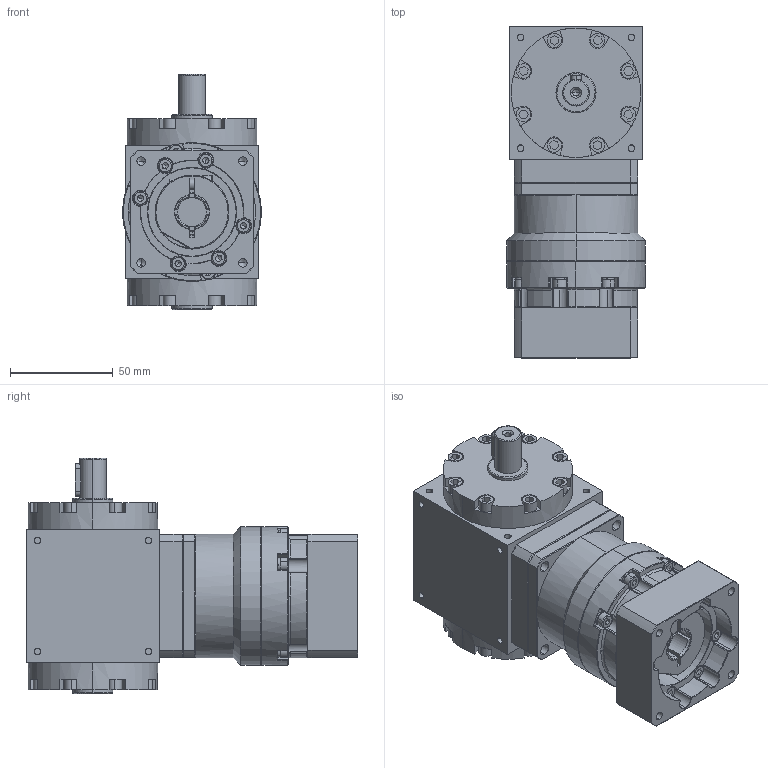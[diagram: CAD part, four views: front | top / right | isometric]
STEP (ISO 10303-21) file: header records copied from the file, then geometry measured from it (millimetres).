
FILE_DESCRIPTION (( 'STEP AP203' ), '1' );
FILE_NAME ('AT065-FL1-L1 14-50-70-M5.STEP', '2024-12-18T07:26:30', ( '' ), ( '' ), 'SwSTEP 2.0', 'SolidWorks 2021', '' );
FILE_SCHEMA (( 'CONFIG_CONTROL_DESIGN' ));
Length unit declared in the file: millimetre
Products named in the file (3): AT065-FL1-L1 14-50-70-M5; AT065-FL1; VRB-060-L1-S2-P1 14-50-70-M5
Assembly tree (2 placements, depth 2):
  AT065-FL1-L1 14-50-70-M5
    AT065-FL1
    VRB-060-L1-S2-P1 14-50-70-M5
Bounding box: 67.5 x 161.5 x 114.5 mm (x, y, z)
Volume: 634466.7 mm3; surface area: 106994.5 mm2
Topology: 33 solids, 33 shells, 1493 faces, 3738 edges, 2351 vertices
Faces by surface type: plane 634, cylinder 567, cone 220, torus 54, bspline 18
Entity records: 45501 total; most frequent: CARTESIAN_POINT 9517, DIRECTION 7737, ORIENTED_EDGE 7356, EDGE_CURVE 3678, AXIS2_PLACEMENT_3D 2978, VERTEX_POINT 2351, VECTOR 1781, LINE 1781
